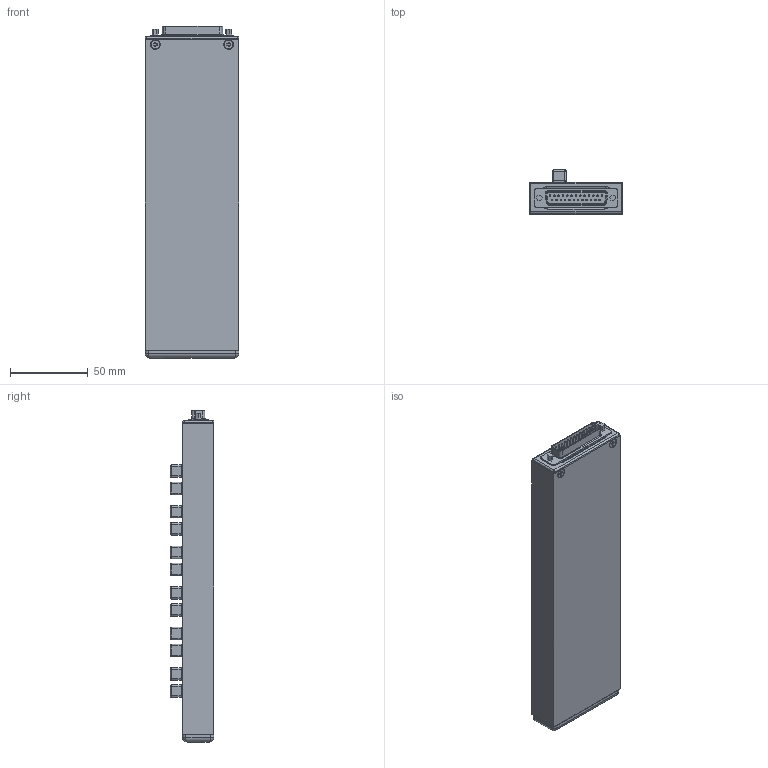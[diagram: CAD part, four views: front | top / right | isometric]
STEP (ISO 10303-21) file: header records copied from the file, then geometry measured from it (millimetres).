
FILE_DESCRIPTION (( 'STEP AP214' ), '1' );
FILE_NAME ('07_046_2.STEP', '2016-07-19T07:05:29', ( '' ), ( '' ), 'SwSTEP 2.0', 'SolidWorks 2016', '' );
FILE_SCHEMA (( 'AUTOMOTIVE_DESIGN' ));
Length unit declared in the file: millimetre
Products named in the file (1): 07_046_2
Bounding box: 60 x 28 x 212.83 mm (x, y, z)
Volume: 257841.3 mm3; surface area: 51568.3 mm2
Topology: 20 solids, 20 shells, 1143 faces, 2748 edges, 1614 vertices
Faces by surface type: plane 450, cylinder 377, cone 196, bspline 120
Entity records: 41017 total; most frequent: CARTESIAN_POINT 8142, DIRECTION 5625, ORIENTED_EDGE 5252, EDGE_CURVE 2626, AXIS2_PLACEMENT_3D 2080, VERTEX_POINT 1614, LINE 1465, VECTOR 1465
